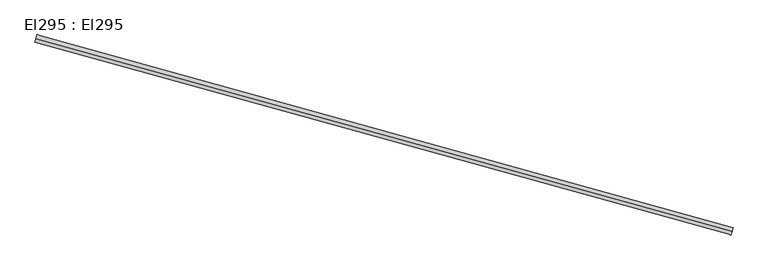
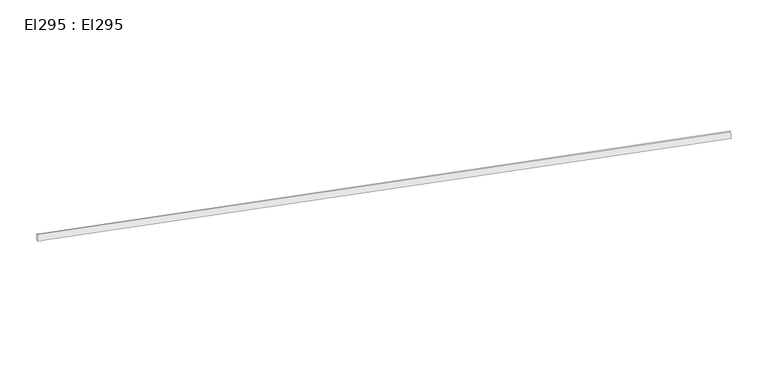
"""IFC4 building model written with IfcOpenShell, lengths in millimetres: cable carrier segment geometry, El295 : El295."""

from ifc_helpers import new_model, si_unit, point, frame, frame_2d, origin, place, context, project, spatial, circle_curve, trimmed, segment, composite_curve, outline, extrude, source, transform, mapped, element, save


def el295_el295_7dceaf91(model_context):
    return source(origin(), model_context, "Body", "SweptSolid", [
        extrude(outline(composite_curve([segment(trimmed(circle_curve(frame_2d((0.0, -9.5)), 9.5), [point((0.0, -19.0))], [point((0.0, 0.0))], False, "CARTESIAN"), True, "CONTINUOUS"), segment(trimmed(circle_curve(frame_2d((0.0, -9.5)), 9.5), [point((0.0, 0.0))], [point((0.0, -19.0))], False, "CARTESIAN"), True, "CONTINUOUS")], self_intersect=False)), frame((16940.3734431, 14278.9054156, 2959.5), z_axis=(-0.9635628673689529, 0.26748196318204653, 0.0), x_axis=(-0.26748196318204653, -0.9635628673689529, 0.0)), (0.0, 0.0, 1.0), 1822.14),
    ])


if __name__ == "__main__":
    model = new_model("IFC4")
    model_context = context("Model", 3, world=origin())
    ifc_project = project(units=[si_unit("LENGTHUNIT", "METRE", prefix="MILLI")], contexts=[model_context])
    site = spatial("IfcSite", under=ifc_project)
    building = spatial("IfcBuilding", under=site)
    placement = place(None, origin())
    el295_el295_shape = el295_el295_7dceaf91(model_context)
    element("IfcCableCarrierSegment", 1, ObjectType="El295 : El295", at=placement, inside=building, context=model_context, shape_type="MappedRepresentation", body=[
        mapped(el295_el295_shape, transform((0.0, 0.0, 0.0), x_axis=(1.0, 0.0, 0.0), y_axis=(0.0, 1.0, 0.0), z_axis=(0.0, 0.0, 1.0))),
    ])
    save(model, "model.ifc")
